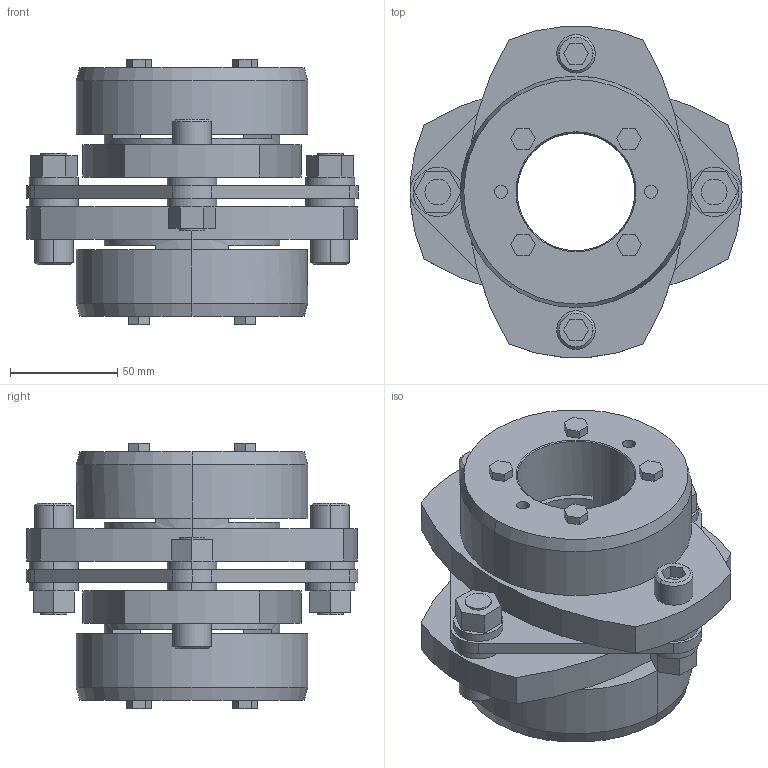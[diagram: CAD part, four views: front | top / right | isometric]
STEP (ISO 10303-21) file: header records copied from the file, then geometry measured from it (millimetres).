
FILE_DESCRIPTION((''),'2;1');
FILE_NAME('LCS-155T7-55×55.stp','2011-09-08T14:34:18',(''),(''),'AutoCAD STEP 2000i','AutoCAD 2000i',', , ');
FILE_SCHEMA(('CONFIG_CONTROL_DESIGN'));
Length unit declared in the file: millimetre
Products named in the file (9): LCS-155T7-55×55; 忣兜1; LC155T7-T055-1; LC155T7-T055; LC155T7-T050-1; LC155T7-T050; LC155T7-T045-1; LC155T7-T045; LCS155-ITA
Assembly tree (8 placements, depth 2):
  LCS-155T7-55×55
    忣兜1
    LC155T7-T055-1
    LC155T7-T055
    LC155T7-T050-1
    LC155T7-T050
    LC155T7-T045-1
    LC155T7-T045
    LCS155-ITA
Bounding box: 155 x 154.9 x 124 mm (x, y, z)
Volume: 865861.8 mm3; surface area: 150918 mm2
Topology: 1 solids, 1 shells, 246 faces, 606 edges, 398 vertices
Faces by surface type: plane 146, cylinder 80, cone 20
Entity records: 7527 total; most frequent: DIRECTION 1314, CARTESIAN_POINT 1259, ORIENTED_EDGE 1212, EDGE_CURVE 606, AXIS2_PLACEMENT_3D 453, VECTOR 408, LINE 408, VERTEX_POINT 398
